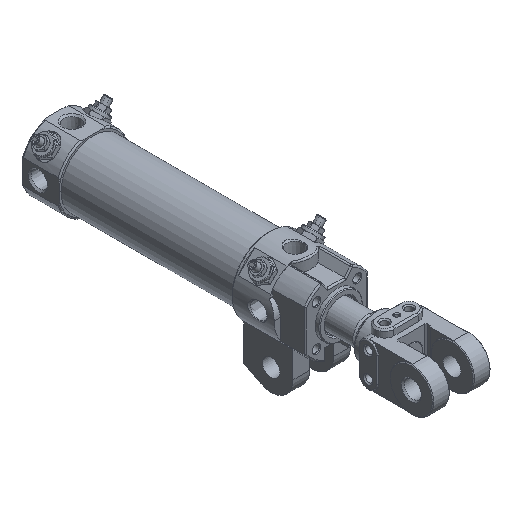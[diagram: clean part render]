
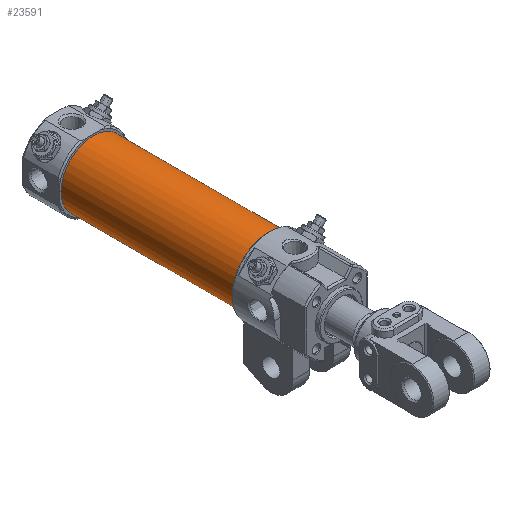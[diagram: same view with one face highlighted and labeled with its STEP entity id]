
A CAD part, isometric view. The second image highlights one B-rep face of the part: STEP entity #23591.
In plain terms, the highlighted cylindrical face has radius 22.5 mm (diameter 45 mm), a full revolution.
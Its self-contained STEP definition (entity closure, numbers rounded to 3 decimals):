
#18270=CARTESIAN_POINT('',(22.5,171.5,0.));
#18271=VERTEX_POINT('',#18270);
#18272=CARTESIAN_POINT('',(0.0,171.5,0.0));
#18273=DIRECTION('',(0.0,-1.0,0.0));
#18274=DIRECTION('',(-1.0,0.0,0.0));
#18275=AXIS2_PLACEMENT_3D('',#18272,#18273,#18274);
#18276=CIRCLE('',#18275,22.5);
#18277=EDGE_CURVE('',#18271,#18271,#18276,.T.);
#23568=CARTESIAN_POINT('',(22.5,50.5,0.));
#23569=VERTEX_POINT('',#23568);
#23570=CARTESIAN_POINT('',(0.0,50.5,0.0));
#23571=DIRECTION('',(0.0,-1.0,0.0));
#23572=DIRECTION('',(-1.0,0.0,0.0));
#23573=AXIS2_PLACEMENT_3D('',#23570,#23571,#23572);
#23574=CIRCLE('',#23573,22.5);
#23575=EDGE_CURVE('',#23569,#23569,#23574,.T.);
#23580=CARTESIAN_POINT('',(0.0,50.5,0.0));
#23581=DIRECTION('',(0.0,1.0,0.0));
#23582=DIRECTION('',(-1.0,0.0,0.0));
#23583=AXIS2_PLACEMENT_3D('',#23580,#23581,#23582);
#23584=CYLINDRICAL_SURFACE('',#23583,22.5);
#23585=ORIENTED_EDGE('',*,*,#18277,.T.);
#23586=EDGE_LOOP('',(#23585));
#23587=FACE_OUTER_BOUND('',#23586,.T.);
#23588=ORIENTED_EDGE('',*,*,#23575,.F.);
#23589=EDGE_LOOP('',(#23588));
#23590=FACE_BOUND('',#23589,.T.);
#23591=ADVANCED_FACE('',(#23587,#23590),#23584,.T.);
